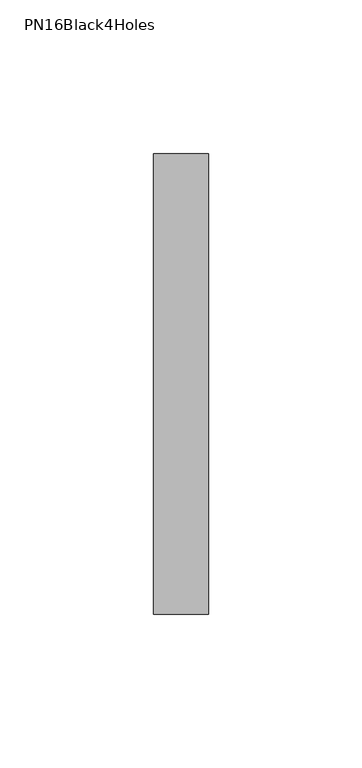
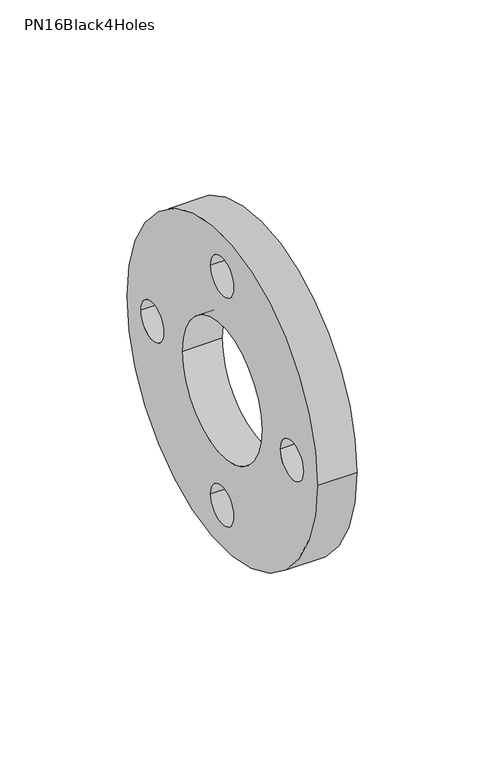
"""IFC4 building model written with IfcOpenShell, lengths in millimetres: pipe fitting geometry, PipeAccessory_GirpiHTA_CPVC_BackingRingsPN16Black4HolesFlangeAndGasket : PN16Black4Holes."""

from ifc_helpers import new_model, si_unit, point, frame, frame_2d, origin, origin_2d, place, context, project, spatial, circle_curve, trimmed, segment, composite_curve, outline, extrude, source, transform, mapped, element, save


def pn16black4holes_800fe3a9(model_context):
    return source(origin(), model_context, "Body", "SweptSolid", [
        extrude(outline(composite_curve([segment(trimmed(circle_curve(origin_2d(), 75.0), [point((-75.0, 0.0))], [point((75.0, 0.0))], False, "CARTESIAN"), True, "CONTINUOUS"), segment(trimmed(circle_curve(origin_2d(), 75.0), [point((75.0, 0.0))], [point((-75.0, 0.0))], False, "CARTESIAN"), True, "CONTINUOUS")], self_intersect=False), holes=[composite_curve([segment(trimmed(circle_curve(origin_2d(), 31.25), [point((-31.25, 0.0))], [point((31.25, 0.0))], True, "CARTESIAN"), True, "CONTINUOUS"), segment(trimmed(circle_curve(origin_2d(), 31.25), [point((31.25, 0.0))], [point((-31.25, 0.0))], True, "CARTESIAN"), True, "CONTINUOUS")], self_intersect=False), composite_curve([segment(trimmed(circle_curve(frame_2d((0.0, 55.0)), 9.0), [point((-9.0, 55.0))], [point((9.0, 55.0))], True, "CARTESIAN"), True, "CONTINUOUS"), segment(trimmed(circle_curve(frame_2d((0.0, 55.0)), 9.0), [point((9.0, 55.0))], [point((-9.0, 55.0))], True, "CARTESIAN"), True, "CONTINUOUS")], self_intersect=False), composite_curve([segment(trimmed(circle_curve(frame_2d((55.0, 0.0)), 9.0), [point((46.0, 0.0))], [point((64.0, 0.0))], True, "CARTESIAN"), True, "CONTINUOUS"), segment(trimmed(circle_curve(frame_2d((55.0, 0.0)), 9.0), [point((64.0, 0.0))], [point((46.0, 0.0))], True, "CARTESIAN"), True, "CONTINUOUS")], self_intersect=False), composite_curve([segment(trimmed(circle_curve(frame_2d((0.0, -55.0)), 9.0), [point((-9.0, -55.0))], [point((9.0, -55.0))], True, "CARTESIAN"), True, "CONTINUOUS"), segment(trimmed(circle_curve(frame_2d((0.0, -55.0)), 9.0), [point((9.0, -55.0))], [point((-9.0, -55.0))], True, "CARTESIAN"), True, "CONTINUOUS")], self_intersect=False), composite_curve([segment(trimmed(circle_curve(frame_2d((-55.0, 0.0)), 9.0), [point((-64.0, 0.0))], [point((-46.0, 0.0))], True, "CARTESIAN"), True, "CONTINUOUS"), segment(trimmed(circle_curve(frame_2d((-55.0, 0.0)), 9.0), [point((-46.0, 0.0))], [point((-64.0, 0.0))], True, "CARTESIAN"), True, "CONTINUOUS")], self_intersect=False)]), frame((-9.0, 0.0, 0.0), z_axis=(1.0, 0.0, 0.0), x_axis=(0.0, 1.0, 0.0)), (0.0, 0.0, 1.0), 18.0),
    ])


if __name__ == "__main__":
    model = new_model("IFC4")
    model_context = context("Model", 3, world=origin())
    ifc_project = project(units=[si_unit("LENGTHUNIT", "METRE", prefix="MILLI")], contexts=[model_context])
    site = spatial("IfcSite", under=ifc_project)
    building = spatial("IfcBuilding", under=site)
    placement = place(None, origin())
    pn16black4holes_shape = pn16black4holes_800fe3a9(model_context)
    element("IfcPipeFitting", 1, ObjectType="PipeAccessory_GirpiHTA_CPVC_BackingRingsPN16Black4HolesFlangeAndGasket : PN16Black4Holes", at=placement, inside=building, context=model_context, shape_type="MappedRepresentation", body=[
        mapped(pn16black4holes_shape, transform((0.0, 0.0, 0.0), x_axis=(1.0, 0.0, 0.0), y_axis=(0.0, 1.0, 0.0), z_axis=(0.0, 0.0, 1.0))),
    ])
    save(model, "model.ifc")
